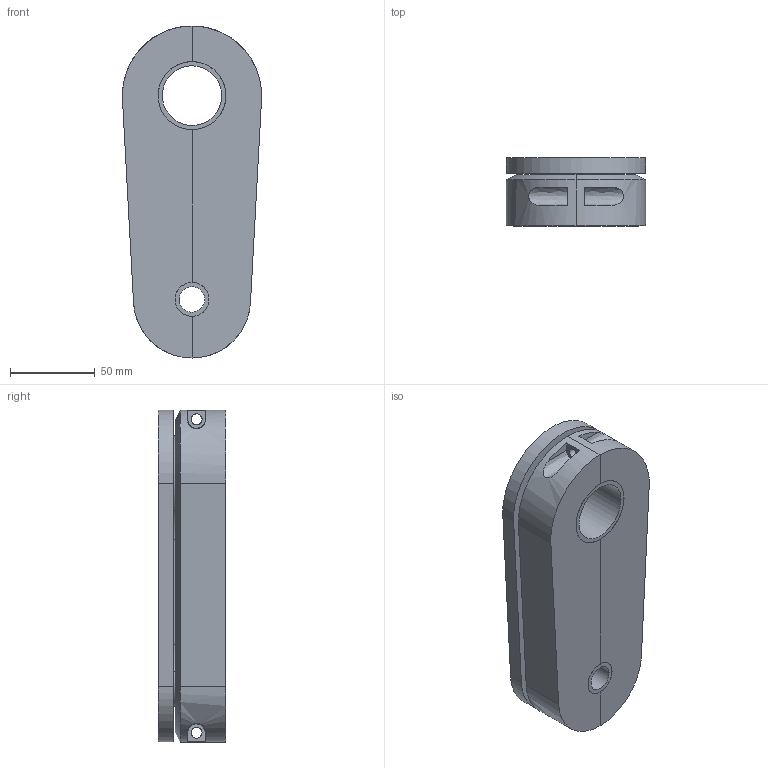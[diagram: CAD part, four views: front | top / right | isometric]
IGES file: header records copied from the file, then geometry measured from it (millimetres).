
Global section: file name: conrod_compression_mould; native system: unknown; preprocessor: unknown; author: unknown; organization: unknown; date: 20211210.090917; units: millimetre
Bounding box: 81.88 x 40 x 195.5 mm (x, y, z)
Volume: 475797.9 mm3; surface area: 116561.3 mm2
Topology: 6 solids, 6 shells, 238 faces, 614 edges, 382 vertices
Faces by surface type: bspline 238
